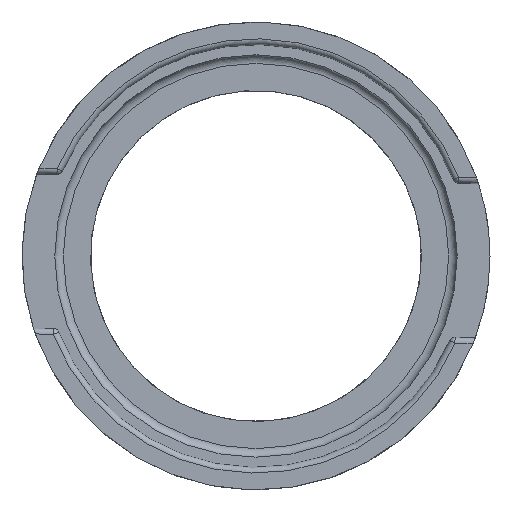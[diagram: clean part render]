
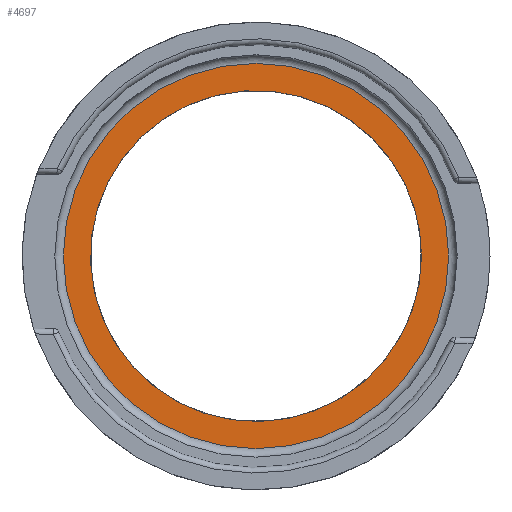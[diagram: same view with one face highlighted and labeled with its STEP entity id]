
A CAD part, top view. The second image highlights one B-rep face of the part: STEP entity #4697.
In plain terms, the highlighted planar face has unit normal (0, 0, 1).
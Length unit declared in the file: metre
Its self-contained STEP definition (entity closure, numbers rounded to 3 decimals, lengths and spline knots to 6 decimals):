
#670=CIRCLE('',#5081,0.03375);
#671=CIRCLE('',#5082,0.029);
#1561=ORIENTED_EDGE('',*,*,#2813,.T.);
#1562=ORIENTED_EDGE('',*,*,#2814,.T.);
#2813=EDGE_CURVE('',#3358,#3358,#670,.F.);
#2814=EDGE_CURVE('',#3359,#3359,#671,.T.);
#3358=VERTEX_POINT('',#11480);
#3359=VERTEX_POINT('',#11482);
#3942=EDGE_LOOP('',(#1561));
#3943=EDGE_LOOP('',(#1562));
#4260=FACE_BOUND('',#3942,.T.);
#4261=FACE_BOUND('',#3943,.T.);
#4463=PLANE('',#5080);
#4697=ADVANCED_FACE('',(#4260,#4261),#4463,.F.);
#5080=AXIS2_PLACEMENT_3D('',#11478,#5668,#5669);
#5081=AXIS2_PLACEMENT_3D('',#11479,#5670,#5671);
#5082=AXIS2_PLACEMENT_3D('',#11481,#5672,#5673);
#5668=DIRECTION('',(0.,0.,-1.));
#5669=DIRECTION('',(0.819,0.574,0.));
#5670=DIRECTION('',(0.,0.,-1.));
#5671=DIRECTION('',(1.,0.,0.));
#5672=DIRECTION('',(0.,0.,-1.));
#5673=DIRECTION('',(1.,0.,0.));
#11478=CARTESIAN_POINT('',(0.,0.,0.0718));
#11479=CARTESIAN_POINT('',(0.,0.,0.0718));
#11480=CARTESIAN_POINT('',(0.03375,0.,0.0718));
#11481=CARTESIAN_POINT('',(0.,0.,0.0718));
#11482=CARTESIAN_POINT('',(0.029,0.,0.0718));
